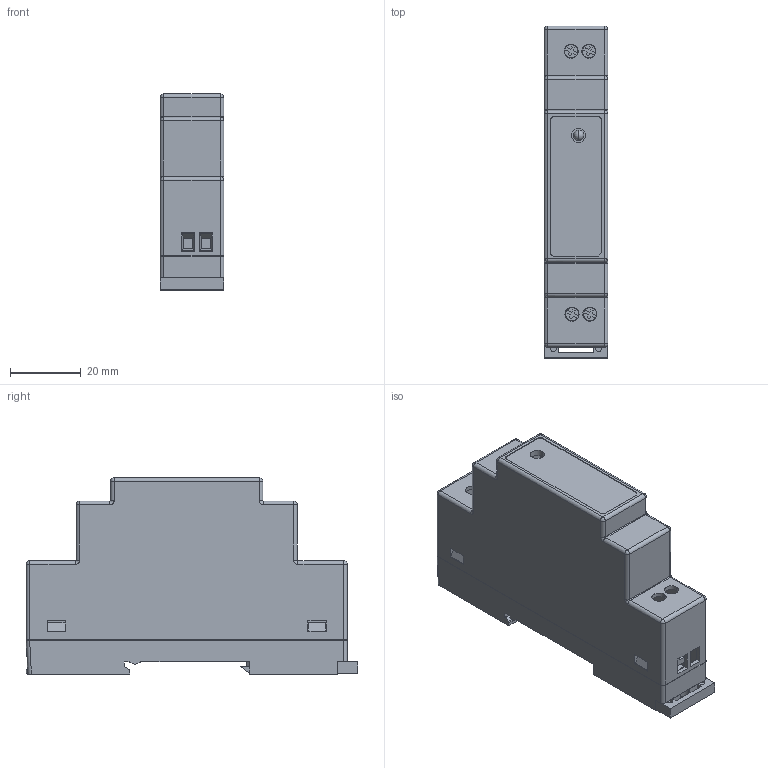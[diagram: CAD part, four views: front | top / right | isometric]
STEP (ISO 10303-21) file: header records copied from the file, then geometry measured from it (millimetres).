
FILE_DESCRIPTION((''),'2;1');
FILE_NAME('ASM000_ASM','2021-01-19T10:08:15',('danae.lavaud'),(''),'CREO PARAMETRIC BY PTC INC, 2018260','CREO PARAMETRIC BY PTC INC, 2018260','');
FILE_SCHEMA(('AUTOMOTIVE_DESIGN { 1 0 10303 214 1 1 1 1 }'));
Products named in the file (11): 330000047TPS_01_31_1; 330000048TPS_01_7_1; 307013257W_1_1; 2969017803_ASM_26_ASM_1_ASM; EE_LED_HOLDER_NEW_AF0_3_1; 294108110600_PWB_MAIN_BOARD_ASM_ASM; 347182720000REVISE1---CREATE_5_; 348634860000_1_1; DRC-24V15W1BX_ASM_146_ASM_1_ASM; ABL_MODULAR10_15W_3DCAD_ASM; ASM000_ASM
Assembly tree (11 placements, depth 6):
  ASM000_ASM
    ABL_MODULAR10_15W_3DCAD_ASM
      DRC-24V15W1BX_ASM_146_ASM_1_ASM
        330000047TPS_01_31_1
        330000048TPS_01_7_1
        294108110600_PWB_MAIN_BOARD_ASM_ASM
          2969017803_ASM_26_ASM_1_ASM
            307013257W_1_1  x2
          EE_LED_HOLDER_NEW_AF0_3_1
        347182720000REVISE1---CREATE_5_
        348634860000_1_1
Bounding box: 18 x 94 x 55.6 mm (x, y, z)
Volume: 20793.8 mm3; surface area: 32419.4 mm2
Topology: 7 solids, 9 shells, 807 faces, 2198 edges, 1430 vertices
Faces by surface type: plane 575, cylinder 136, torus 48, cone 22, sphere 14, bspline 8, extrusion 4
Entity records: 25546 total; most frequent: CARTESIAN_POINT 4046, ORIENTED_EDGE 3470, DIRECTION 3378, EDGE_CURVE 1735, VECTOR 1348, LINE 1346, PRESENTATION_STYLE_ASSIGNMENT 1201, STYLED_ITEM 1198
